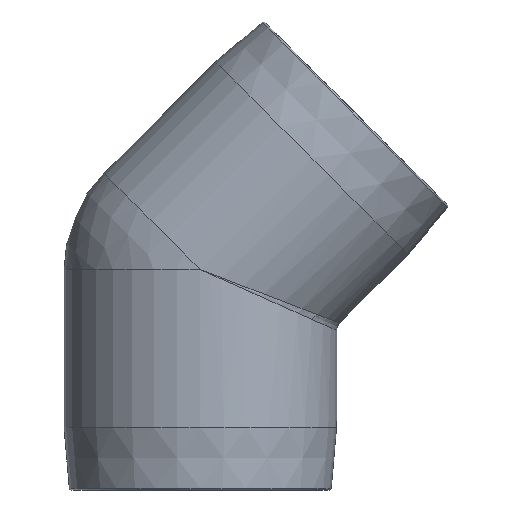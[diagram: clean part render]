
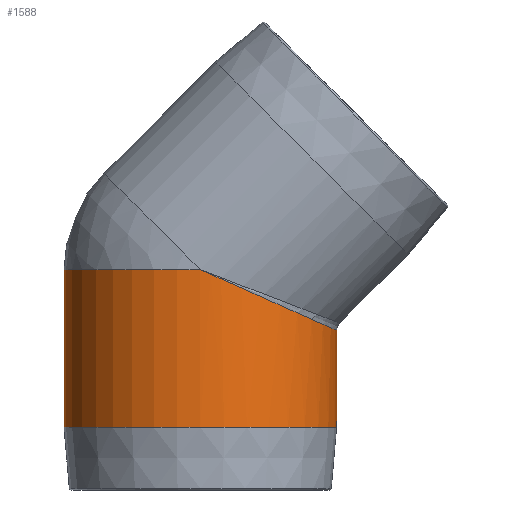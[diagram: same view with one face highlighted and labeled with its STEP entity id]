
A CAD part, front view. The second image highlights one B-rep face of the part: STEP entity #1588.
In plain terms, the highlighted cylindrical face has radius 39.25 mm (diameter 78.5 mm), a partial arc.
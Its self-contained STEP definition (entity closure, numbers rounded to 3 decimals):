
#8 = AXIS2_PLACEMENT_3D ( 'NONE', #126, #20, #347 ) ;
#20 = DIRECTION ( 'NONE',  ( 0., 0., 1. ) ) ;
#39 = VERTEX_POINT ( 'NONE', #3533 ) ;
#90 = CARTESIAN_POINT ( 'NONE',  ( 39.25, 0., -17.501 ) ) ;
#99 = CARTESIAN_POINT ( 'NONE',  ( -39.25, 0., 0. ) ) ;
#126 = CARTESIAN_POINT ( 'NONE',  ( 0., 0., -63.45 ) ) ;
#333 = VERTEX_POINT ( 'NONE', #90 ) ;
#347 = DIRECTION ( 'NONE',  ( 1., 0., 0. ) ) ;
#360 = ORIENTED_EDGE ( 'NONE', *, *, #432, .T. ) ;
#404 = ORIENTED_EDGE ( 'NONE', *, *, #539, .T. ) ;
#432 = EDGE_CURVE ( 'NONE', #333, #2671, #793, .T. ) ;
#433 = EDGE_LOOP ( 'NONE', ( #3258, #2875, #404, #360, #3379 ) ) ;
#455 = CARTESIAN_POINT ( 'NONE',  ( 39.25, 0., -63.45 ) ) ;
#535 = EDGE_CURVE ( 'NONE', #3663, #2671, #3116, .T. ) ;
#539 = EDGE_CURVE ( 'NONE', #39, #333, #744, .T. ) ;
#643 = EDGE_CURVE ( 'NONE', #1552, #3663, #1405, .T. ) ;
#703 = DIRECTION ( 'NONE',  ( 0., 0., 1. ) ) ;
#713 = DIRECTION ( 'NONE',  ( 1., 0., 0. ) ) ;
#744 = LINE ( 'NONE', #455, #2208 ) ;
#773 = CARTESIAN_POINT ( 'NONE',  ( 0., 0., -45.45 ) ) ;
#793 =( BOUNDED_CURVE ( )  B_SPLINE_CURVE ( 3, ( #2429, #1254, #3286, #3315 ),
 .UNSPECIFIED., .F., .F. ) 
 B_SPLINE_CURVE_WITH_KNOTS ( ( 4, 4 ),
 ( 0., 1.571 ),
 .UNSPECIFIED. ) 
 CURVE ( )  GEOMETRIC_REPRESENTATION_ITEM ( )  RATIONAL_B_SPLINE_CURVE ( ( 1., 0.805, 0.805, 1. ) ) 
 REPRESENTATION_ITEM ( '' )  );
#823 = FACE_OUTER_BOUND ( 'NONE', #433, .T. ) ;
#949 = DIRECTION ( 'NONE',  ( 0., 0., 1. ) ) ;
#1196 = CIRCLE ( 'NONE', #3480, 39.25 ) ;
#1254 = CARTESIAN_POINT ( 'NONE',  ( 39.25, -22.992, -17.501 ) ) ;
#1312 = VECTOR ( 'NONE', #1700, 1000. ) ;
#1405 = LINE ( 'NONE', #2600, #1312 ) ;
#1552 = VERTEX_POINT ( 'NONE', #2379 ) ;
#1582 = AXIS2_PLACEMENT_3D ( 'NONE', #2531, #703, #713 ) ;
#1588 = ADVANCED_FACE ( 'NONE', ( #823 ), #3108, .T. ) ;
#1700 = DIRECTION ( 'NONE',  ( 0., 0., 1. ) ) ;
#2061 = CARTESIAN_POINT ( 'NONE',  ( 0., -39.25, 0. ) ) ;
#2208 = VECTOR ( 'NONE', #949, 1000. ) ;
#2251 = DIRECTION ( 'NONE',  ( 1., 0., 0. ) ) ;
#2379 = CARTESIAN_POINT ( 'NONE',  ( -39.25, 0., -45.45 ) ) ;
#2429 = CARTESIAN_POINT ( 'NONE',  ( 39.25, 0., -17.501 ) ) ;
#2531 = CARTESIAN_POINT ( 'NONE',  ( 0., 0., 0. ) ) ;
#2600 = CARTESIAN_POINT ( 'NONE',  ( -39.25, 0., -63.45 ) ) ;
#2671 = VERTEX_POINT ( 'NONE', #2061 ) ;
#2875 = ORIENTED_EDGE ( 'NONE', *, *, #3161, .T. ) ;
#3108 = CYLINDRICAL_SURFACE ( 'NONE', #8, 39.25 ) ;
#3116 = CIRCLE ( 'NONE', #1582, 39.25 ) ;
#3161 = EDGE_CURVE ( 'NONE', #1552, #39, #1196, .T. ) ;
#3258 = ORIENTED_EDGE ( 'NONE', *, *, #643, .F. ) ;
#3286 = CARTESIAN_POINT ( 'NONE',  ( 22.992, -39.25, -10.252 ) ) ;
#3315 = CARTESIAN_POINT ( 'NONE',  ( 0., -39.25, 0. ) ) ;
#3379 = ORIENTED_EDGE ( 'NONE', *, *, #535, .F. ) ;
#3480 = AXIS2_PLACEMENT_3D ( 'NONE', #773, #3521, #2251 ) ;
#3521 = DIRECTION ( 'NONE',  ( 0., 0., 1. ) ) ;
#3533 = CARTESIAN_POINT ( 'NONE',  ( 39.25, 0., -45.45 ) ) ;
#3663 = VERTEX_POINT ( 'NONE', #99 ) ;
